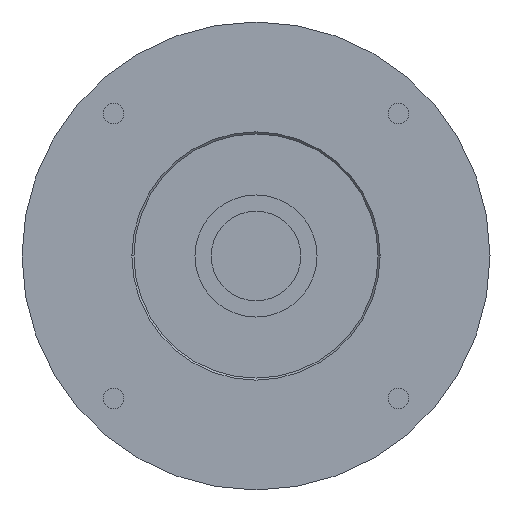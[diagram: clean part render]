
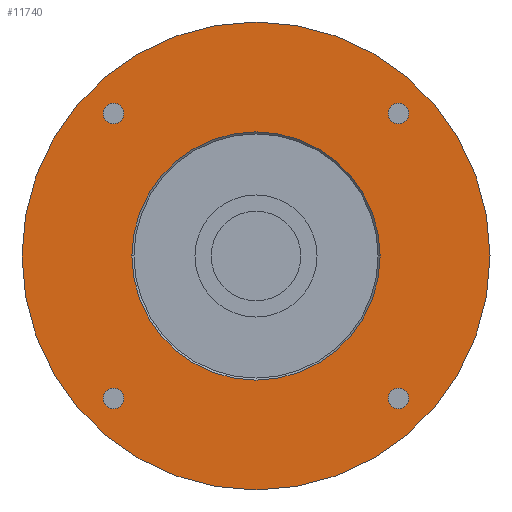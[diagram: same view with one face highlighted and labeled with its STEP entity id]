
A CAD part, left-side view. The second image highlights one B-rep face of the part: STEP entity #11740.
In plain terms, the highlighted planar face has unit normal (-1, 0, 0) as drawn and (0, 0, -1) by its records, which use the part's own axes.
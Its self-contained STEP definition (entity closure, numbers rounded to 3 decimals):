
#9080=CARTESIAN_POINT('',(35.002,32.502,-66.4));
#9090=VERTEX_POINT('',#9080);
#9120=CARTESIAN_POINT('',(35.002,35.002,-66.4));
#9130=DIRECTION('',(0.,0.,-1.));
#9140=DIRECTION('',(1.,0.,0.));
#9150=AXIS2_PLACEMENT_3D('',#9120,#9130,#9140);
#9160=CIRCLE('',#9150,2.5);
#9170=CARTESIAN_POINT('',(37.502,35.002,-66.4));
#9180=VERTEX_POINT('',#9170);
#9190=EDGE_CURVE('',#9180,#9090,#9160,.T.);
#9210=CARTESIAN_POINT('',(35.002,37.502,-66.4));
#9220=VERTEX_POINT('',#9210);
#9230=EDGE_CURVE('',#9220,#9180,#9160,.T.);
#10590=CARTESIAN_POINT('',(0.,-57.5,-66.4));
#10600=VERTEX_POINT('',#10590);
#10630=CARTESIAN_POINT('',(0.,0.,
-66.4));
#10640=DIRECTION('',(0.,0.,-1.));
#10650=DIRECTION('',(0.,-1.,0.));
#10660=AXIS2_PLACEMENT_3D('',#10630,#10640,#10650);
#10670=CIRCLE('',#10660,57.5);
#10680=CARTESIAN_POINT('',(0.,57.5,-66.4));
#10690=VERTEX_POINT('',#10680);
#10700=EDGE_CURVE('',#10600,#10690,#10670,.T.);
#10820=CARTESIAN_POINT('',(0.,0.,
-66.4));
#10830=DIRECTION('',(0.,0.,-1.));
#10840=DIRECTION('',(0.,1.,0.));
#10850=AXIS2_PLACEMENT_3D('',#10820,#10830,#10840);
#10860=PLANE('',#10850);
#10870=CARTESIAN_POINT('',(0.,0.,
-66.4));
#10880=DIRECTION('',(0.,0.,-1.));
#10890=DIRECTION('',(0.,1.,0.));
#10900=AXIS2_PLACEMENT_3D('',#10870,#10880,#10890);
#10910=CIRCLE('',#10900,30.5);
#10920=CARTESIAN_POINT('',(0.,30.5,-66.4));
#10930=VERTEX_POINT('',#10920);
#10940=CARTESIAN_POINT('',(30.5,0.,-66.4));
#10950=VERTEX_POINT('',#10940);
#10960=EDGE_CURVE('',#10930,#10950,#10910,.T.);
#10970=ORIENTED_EDGE('',*,*,#10960,.F.);
#10980=CARTESIAN_POINT('',(-30.5,0.,-66.4));
#10990=VERTEX_POINT('',#10980);
#11000=EDGE_CURVE('',#10950,#10990,#10910,.T.);
#11010=ORIENTED_EDGE('',*,*,#11000,.F.);
#11020=EDGE_CURVE('',#10990,#10930,#10910,.T.);
#11030=ORIENTED_EDGE('',*,*,#11020,.F.);
#11040=EDGE_LOOP('',(#11030,#11010,#10970));
#11050=FACE_BOUND('',#11040,.T.);
#11060=CARTESIAN_POINT('',(-35.002,-35.002,-66.4));
#11070=DIRECTION('',(0.,0.,-1.));
#11080=DIRECTION('',(1.,0.,0.));
#11090=AXIS2_PLACEMENT_3D('',#11060,#11070,#11080);
#11100=CIRCLE('',#11090,2.5);
#11110=CARTESIAN_POINT('',(-32.502,-35.002,-66.4));
#11120=VERTEX_POINT('',#11110);
#11130=CARTESIAN_POINT('',(-35.002,-37.502,-66.4));
#11140=VERTEX_POINT('',#11130);
#11150=EDGE_CURVE('',#11120,#11140,#11100,.T.);
#11160=ORIENTED_EDGE('',*,*,#11150,.F.);
#11170=CARTESIAN_POINT('',(-35.002,-32.502,-66.4));
#11180=VERTEX_POINT('',#11170);
#11190=EDGE_CURVE('',#11140,#11180,#11100,.T.);
#11200=ORIENTED_EDGE('',*,*,#11190,.F.);
#11210=EDGE_CURVE('',#11180,#11120,#11100,.T.);
#11220=ORIENTED_EDGE('',*,*,#11210,.F.);
#11230=EDGE_LOOP('',(#11220,#11200,#11160));
#11240=FACE_BOUND('',#11230,.T.);
#11250=CARTESIAN_POINT('',(-35.002,35.002,-66.4));
#11260=DIRECTION('',(0.,0.,-1.));
#11270=DIRECTION('',(1.,0.,0.));
#11280=AXIS2_PLACEMENT_3D('',#11250,#11260,#11270);
#11290=CIRCLE('',#11280,2.5);
#11300=CARTESIAN_POINT('',(-32.502,35.002,-66.4));
#11310=VERTEX_POINT('',#11300);
#11320=CARTESIAN_POINT('',(-35.002,32.502,-66.4));
#11330=VERTEX_POINT('',#11320);
#11340=EDGE_CURVE('',#11310,#11330,#11290,.T.);
#11350=ORIENTED_EDGE('',*,*,#11340,.F.);
#11360=CARTESIAN_POINT('',(-35.002,37.502,-66.4));
#11370=VERTEX_POINT('',#11360);
#11380=EDGE_CURVE('',#11330,#11370,#11290,.T.);
#11390=ORIENTED_EDGE('',*,*,#11380,.F.);
#11400=EDGE_CURVE('',#11370,#11310,#11290,.T.);
#11410=ORIENTED_EDGE('',*,*,#11400,.F.);
#11420=EDGE_LOOP('',(#11410,#11390,#11350));
#11430=FACE_BOUND('',#11420,.T.);
#11440=ORIENTED_EDGE('',*,*,#9190,.F.);
#11450=EDGE_CURVE('',#9090,#9220,#9160,.T.);
#11460=ORIENTED_EDGE('',*,*,#11450,.F.);
#11470=ORIENTED_EDGE('',*,*,#9230,.F.);
#11480=EDGE_LOOP('',(#11470,#11460,#11440));
#11490=FACE_BOUND('',#11480,.T.);
#11500=CARTESIAN_POINT('',(35.002,-35.002,-66.4));
#11510=DIRECTION('',(0.,0.,-1.));
#11520=DIRECTION('',(1.,0.,0.));
#11530=AXIS2_PLACEMENT_3D('',#11500,#11510,#11520);
#11540=CIRCLE('',#11530,2.5);
#11550=CARTESIAN_POINT('',(37.502,-35.002,-66.4));
#11560=VERTEX_POINT('',#11550);
#11570=CARTESIAN_POINT('',(35.002,-37.502,-66.4));
#11580=VERTEX_POINT('',#11570);
#11590=EDGE_CURVE('',#11560,#11580,#11540,.T.);
#11600=ORIENTED_EDGE('',*,*,#11590,.F.);
#11610=CARTESIAN_POINT('',(35.002,-32.502,-66.4));
#11620=VERTEX_POINT('',#11610);
#11630=EDGE_CURVE('',#11580,#11620,#11540,.T.);
#11640=ORIENTED_EDGE('',*,*,#11630,.F.);
#11650=EDGE_CURVE('',#11620,#11560,#11540,.T.);
#11660=ORIENTED_EDGE('',*,*,#11650,.F.);
#11670=EDGE_LOOP('',(#11660,#11640,#11600));
#11680=FACE_BOUND('',#11670,.T.);
#11690=ORIENTED_EDGE('',*,*,#10700,.T.);
#11700=EDGE_CURVE('',#10690,#10600,#10670,.T.);
#11710=ORIENTED_EDGE('',*,*,#11700,.T.);
#11720=EDGE_LOOP('',(#11710,#11690));
#11730=FACE_OUTER_BOUND('',#11720,.T.);
#11740=ADVANCED_FACE('',(#11050,#11240,#11430,#11490,#11680,#11730),
#10860,.T.);
